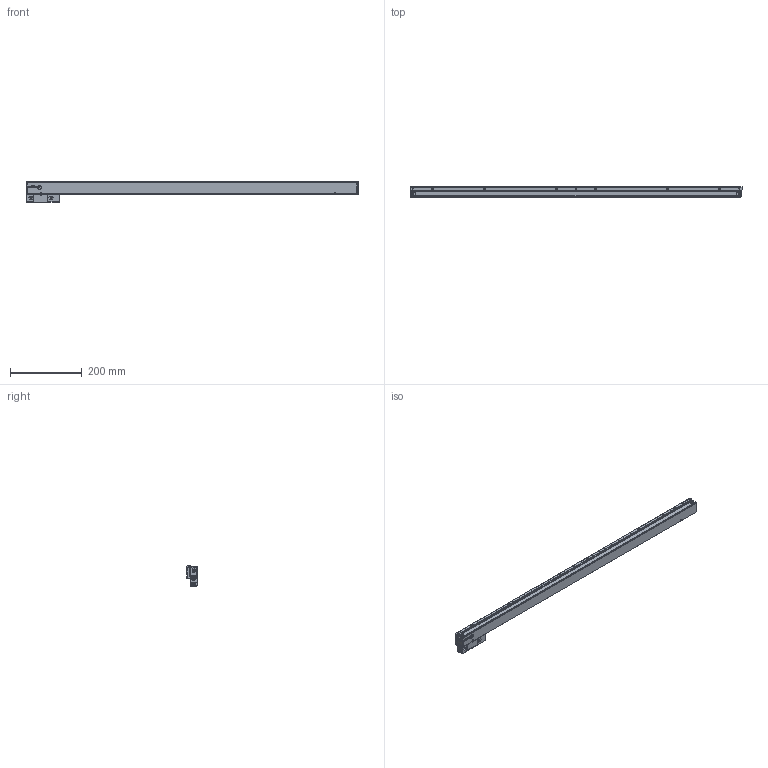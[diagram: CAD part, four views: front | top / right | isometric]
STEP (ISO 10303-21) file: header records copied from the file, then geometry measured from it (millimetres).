
FILE_DESCRIPTION(('Creo Elements/Direct Modeling STEP Export'),'2;1');
FILE_NAME('Regla SV2-820-T.stp','2018-10-15T15:39:29',(''),(''),'Creo Elements/Direct Modeling STEP processor for AP214 (Solid Model)','Creo Elements/Direct Modeling 19.0G 27-Nov-2017 (C) Parametric Technology GmbH','');
FILE_SCHEMA(('AUTOMOTIVE_DESIGN { 1 0 10303 214 1 1 1 1 }'));
Products named in the file (4): SOPORTE_SV2-T; REGLA_SV2-820-T; CABEZA_ROSCADA_REGLA_SV2-T
Assembly tree (3 placements, depth 2):
  REGLA_SV2-820-T
    CABEZA_ROSCADA_REGLA_SV2-T
    REGLA_SV2-820-T
    SOPORTE_SV2-T
Bounding box: 925 x 28 x 56.2 mm (x, y, z)
Volume: 509091.4 mm3; surface area: 270134.9 mm2
Topology: 2 solids, 24 shells, 2393 faces, 6651 edges, 4328 vertices
Faces by surface type: plane 1062, cylinder 936, cone 232, bspline 114, torus 42, sphere 4, extrusion 3
Entity records: 100411 total; most frequent: CARTESIAN_POINT 31209, ORIENTED_EDGE 13290, DIRECTION 10965, EDGE_CURVE 6629, VERTEX_POINT 4328, AXIS2_PLACEMENT_3D 3741, VECTOR 3483, LINE 3480
